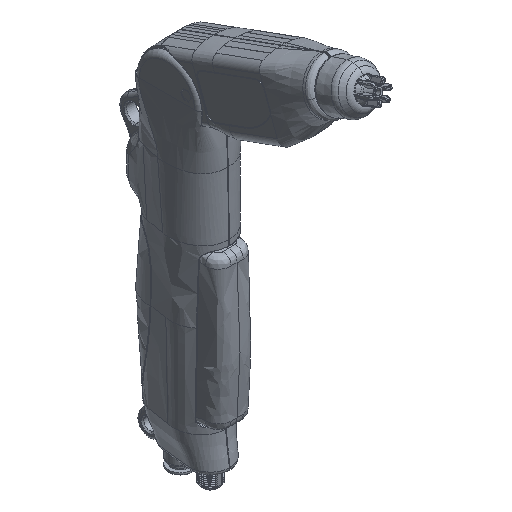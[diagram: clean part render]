
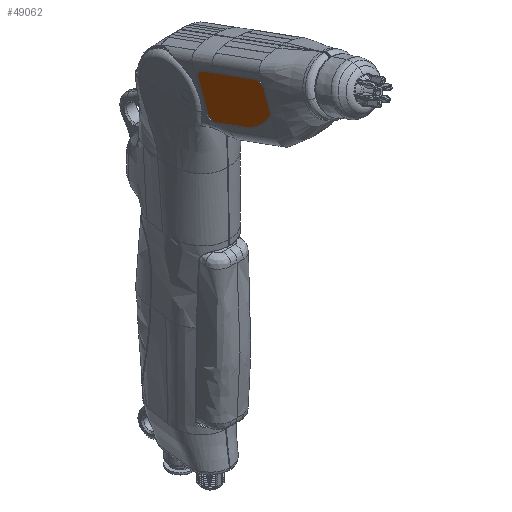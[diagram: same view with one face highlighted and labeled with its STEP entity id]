
A CAD part, isometric view. The second image highlights one B-rep face of the part: STEP entity #49062.
In plain terms, the highlighted planar face has unit normal (-1, 0, 0).
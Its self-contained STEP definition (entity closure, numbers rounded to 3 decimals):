
#205 = VERTEX_POINT ( 'NONE', #14996 ) ;
#673 = CARTESIAN_POINT ( 'NONE',  ( 511.332, 74.78, 251.687 ) ) ;
#816 = EDGE_CURVE ( 'NONE', #41223, #60386, #49493, .T. ) ;
#862 = ORIENTED_EDGE ( 'NONE', *, *, #48047, .T. ) ;
#1475 = CARTESIAN_POINT ( 'NONE',  ( 511.332, 102.589, 262.749 ) ) ;
#1715 = DIRECTION ( 'NONE',  ( 0., -0.94, 0.342 ) ) ;
#2369 = ORIENTED_EDGE ( 'NONE', *, *, #4269, .T. ) ;
#3485 = LINE ( 'NONE', #66866, #28538 ) ;
#4269 = EDGE_CURVE ( 'NONE', #30265, #205, #3485, .T. ) ;
#4810 = DIRECTION ( 'NONE',  ( 0., -0.94, 0.342 ) ) ;
#5475 = DIRECTION ( 'NONE',  ( 0., -0.94, 0.342 ) ) ;
#5942 = CIRCLE ( 'NONE', #56784, 26.714 ) ;
#7738 = VERTEX_POINT ( 'NONE', #66640 ) ;
#8677 = EDGE_CURVE ( 'NONE', #29695, #32048, #31105, .T. ) ;
#9663 = PLANE ( 'NONE',  #18257 ) ;
#10676 = DIRECTION ( 'NONE',  ( 0., -0.94, 0.342 ) ) ;
#12649 = ORIENTED_EDGE ( 'NONE', *, *, #65894, .T. ) ;
#14996 = CARTESIAN_POINT ( 'NONE',  ( 511.332, 63.371, 277.023 ) ) ;
#16713 = DIRECTION ( 'NONE',  ( -1., 0., 0. ) ) ;
#17336 = DIRECTION ( 'NONE',  ( -1., 0., 0. ) ) ;
#18191 = LINE ( 'NONE', #28886, #42996 ) ;
#18257 = AXIS2_PLACEMENT_3D ( 'NONE', #62618, #67494, #5475 ) ;
#19276 = CIRCLE ( 'NONE', #52447, 4. ) ;
#20027 = CARTESIAN_POINT ( 'NONE',  ( 511.332, 92.022, 245.412 ) ) ;
#20390 = VERTEX_POINT ( 'NONE', #67261 ) ;
#23547 = ORIENTED_EDGE ( 'NONE', *, *, #64918, .T. ) ;
#23584 = DIRECTION ( 'NONE',  ( 0., 0.342, 0.94 ) ) ;
#24803 = VERTEX_POINT ( 'NONE', #66660 ) ;
#25207 = DIRECTION ( 'NONE',  ( -1., 0., 0. ) ) ;
#28097 = DIRECTION ( 'NONE',  ( 0., -0.94, 0.342 ) ) ;
#28538 = VECTOR ( 'NONE', #23584, 1000. ) ;
#28886 = CARTESIAN_POINT ( 'NONE',  ( 511.332, 100.198, 267.876 ) ) ;
#28963 = CIRCLE ( 'NONE', #37826, 4. ) ;
#29695 = VERTEX_POINT ( 'NONE', #66508 ) ;
#30265 = VERTEX_POINT ( 'NONE', #38231 ) ;
#30754 = DIRECTION ( 'NONE',  ( -1., 0., 0. ) ) ;
#31105 = LINE ( 'NONE', #20027, #39857 ) ;
#31442 = FACE_OUTER_BOUND ( 'NONE', #62015, .T. ) ;
#31765 = DIRECTION ( 'NONE',  ( 0., -0.94, 0.342 ) ) ;
#32048 = VERTEX_POINT ( 'NONE', #673 ) ;
#32362 = ORIENTED_EDGE ( 'NONE', *, *, #816, .T. ) ;
#32522 = ORIENTED_EDGE ( 'NONE', *, *, #44759, .T. ) ;
#32602 = AXIS2_PLACEMENT_3D ( 'NONE', #58080, #30754, #10676 ) ;
#36249 = CIRCLE ( 'NONE', #42993, 4. ) ;
#36364 = VECTOR ( 'NONE', #49828, 1000. ) ;
#37826 = AXIS2_PLACEMENT_3D ( 'NONE', #44402, #16713, #28097 ) ;
#38231 = CARTESIAN_POINT ( 'NONE',  ( 511.332, 59.984, 267.72 ) ) ;
#38770 = CARTESIAN_POINT ( 'NONE',  ( 511.332, 102.589, 262.749 ) ) ;
#39857 = VECTOR ( 'NONE', #31765, 1000. ) ;
#41101 = EDGE_CURVE ( 'NONE', #7738, #41223, #28963, .T. ) ;
#41223 = VERTEX_POINT ( 'NONE', #1475 ) ;
#41780 = ORIENTED_EDGE ( 'NONE', *, *, #8677, .T. ) ;
#41967 = CARTESIAN_POINT ( 'NONE',  ( 511.332, 67.129, 275.655 ) ) ;
#42993 = AXIS2_PLACEMENT_3D ( 'NONE', #41967, #17336, #48169 ) ;
#42996 = VECTOR ( 'NONE', #60387, 1000. ) ;
#44297 = CARTESIAN_POINT ( 'NONE',  ( 511.332, 83.917, 276.79 ) ) ;
#44402 = CARTESIAN_POINT ( 'NONE',  ( 511.332, 98.83, 264.117 ) ) ;
#44759 = EDGE_CURVE ( 'NONE', #32048, #20390, #5942, .T. ) ;
#48047 = EDGE_CURVE ( 'NONE', #20390, #30265, #19276, .T. ) ;
#48169 = DIRECTION ( 'NONE',  ( 0., -0.94, 0.342 ) ) ;
#49062 = ADVANCED_FACE ( 'NONE', ( #31442 ), #9663, .T. ) ;
#49086 = EDGE_CURVE ( 'NONE', #60386, #29695, #51452, .T. ) ;
#49144 = DIRECTION ( 'NONE',  ( -1., 0., 0. ) ) ;
#49493 = LINE ( 'NONE', #38770, #36364 ) ;
#49828 = DIRECTION ( 'NONE',  ( 0., -0.342, -0.94 ) ) ;
#51085 = ORIENTED_EDGE ( 'NONE', *, *, #49086, .T. ) ;
#51452 = CIRCLE ( 'NONE', #32602, 4. ) ;
#52225 = CARTESIAN_POINT ( 'NONE',  ( 511.332, 63.743, 266.351 ) ) ;
#52447 = AXIS2_PLACEMENT_3D ( 'NONE', #52225, #25207, #4810 ) ;
#52819 = CARTESIAN_POINT ( 'NONE',  ( 511.332, 97.148, 247.802 ) ) ;
#56784 = AXIS2_PLACEMENT_3D ( 'NONE', #44297, #49144, #1715 ) ;
#58080 = CARTESIAN_POINT ( 'NONE',  ( 511.332, 93.39, 249.17 ) ) ;
#58118 = ORIENTED_EDGE ( 'NONE', *, *, #41101, .T. ) ;
#60386 = VERTEX_POINT ( 'NONE', #52819 ) ;
#60387 = DIRECTION ( 'NONE',  ( 0., 0.94, -0.342 ) ) ;
#62015 = EDGE_LOOP ( 'NONE', ( #51085, #41780, #32522, #862, #2369, #12649, #23547, #58118, #32362 ) ) ;
#62618 = CARTESIAN_POINT ( 'NONE',  ( 511.332, 93.39, 249.17 ) ) ;
#64918 = EDGE_CURVE ( 'NONE', #24803, #7738, #18191, .T. ) ;
#65894 = EDGE_CURVE ( 'NONE', #205, #24803, #36249, .T. ) ;
#66508 = CARTESIAN_POINT ( 'NONE',  ( 511.332, 92.022, 245.412 ) ) ;
#66640 = CARTESIAN_POINT ( 'NONE',  ( 511.332, 100.198, 267.876 ) ) ;
#66660 = CARTESIAN_POINT ( 'NONE',  ( 511.332, 68.498, 279.414 ) ) ;
#66866 = CARTESIAN_POINT ( 'NONE',  ( 511.332, 59.984, 267.72 ) ) ;
#67261 = CARTESIAN_POINT ( 'NONE',  ( 511.332, 60.191, 264.513 ) ) ;
#67494 = DIRECTION ( 'NONE',  ( -1., 0., 0. ) ) ;
